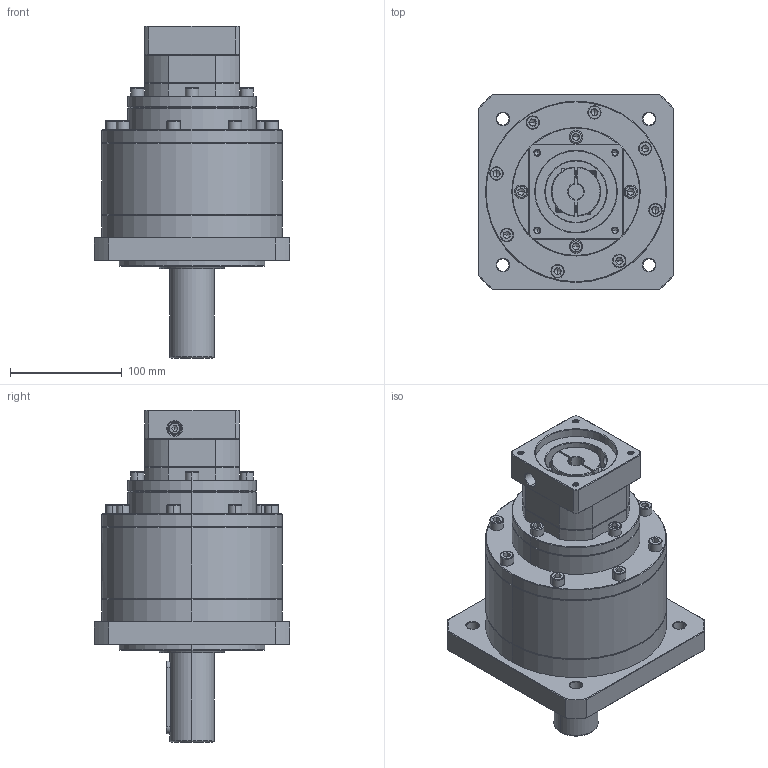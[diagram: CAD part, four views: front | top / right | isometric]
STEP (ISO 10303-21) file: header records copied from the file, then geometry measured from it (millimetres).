
FILE_DESCRIPTION (( 'STEP AP214' ), '1' );
FILE_NAME ('ZF160A-D40-L3-P2-14-73-69.6X69.6-M6.step', '2023-09-03T08:15:27', ( '' ), ( '' ), 'SwSTEP 2.0', 'SolidWorks 2016', '' );
FILE_SCHEMA (( 'AUTOMOTIVE_DESIGN' ));
Length unit declared in the file: millimetre
Products named in the file (1): ZF160A-D40-L3-P2-14-73-69.6X69.6-M6
Bounding box: 175 x 175 x 297.2 mm (x, y, z)
Volume: 3406014.8 mm3; surface area: 227571.8 mm2
Topology: 5 solids, 6 shells, 2419 faces, 6388 edges, 4090 vertices
Faces by surface type: plane 1145, cylinder 467, bspline 397, cone 349, torus 61
Entity records: 130015 total; most frequent: CARTESIAN_POINT 48708, ORIENTED_EDGE 12668, DIRECTION 9644, EDGE_CURVE 6334, VERTEX_POINT 4090, LINE 3374, VECTOR 3374, AXIS2_PLACEMENT_3D 3135
